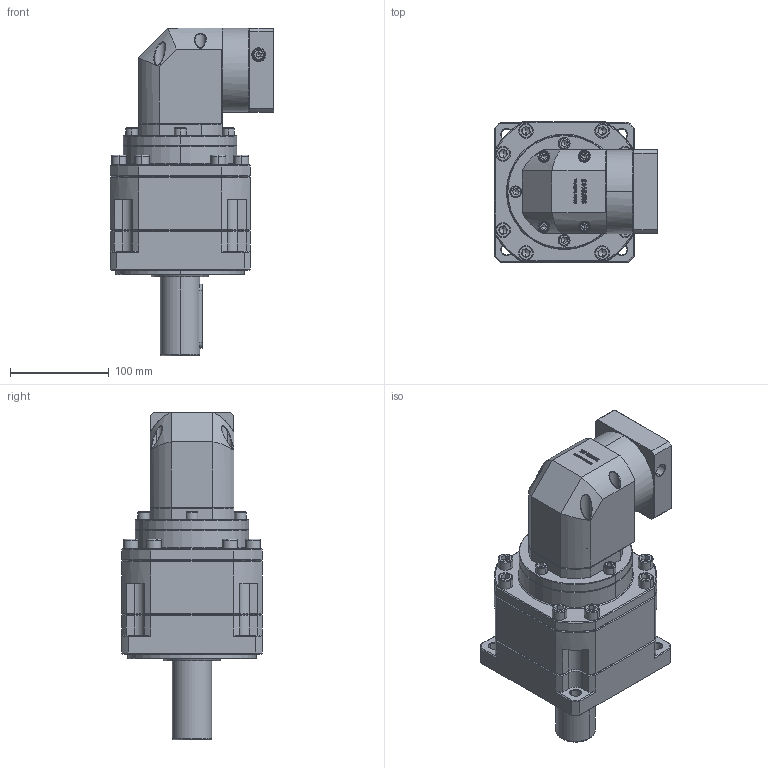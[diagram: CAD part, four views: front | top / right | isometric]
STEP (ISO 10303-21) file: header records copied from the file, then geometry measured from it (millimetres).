
FILE_DESCRIPTION (( 'STEP AP214' ), '1' );
FILE_NAME ('ZB142A-D40-L3-16-80-100-M6.step', '2023-03-20T12:06:18', ( '' ), ( '' ), 'SwSTEP 2.0', 'SolidWorks 2016', '' );
FILE_SCHEMA (( 'AUTOMOTIVE_DESIGN' ));
Length unit declared in the file: millimetre
Products named in the file (1): ZB142A-D40-L3-16-80-100-M6
Bounding box: 166.1 x 142 x 332.2 mm (x, y, z)
Volume: 3351245.7 mm3; surface area: 244173.5 mm2
Topology: 6 solids, 6 shells, 3330 faces, 8684 edges, 5526 vertices
Faces by surface type: plane 1745, bspline 603, cylinder 526, cone 396, torus 60
Entity records: 176834 total; most frequent: CARTESIAN_POINT 63396, ORIENTED_EDGE 17228, DIRECTION 13613, EDGE_CURVE 8614, LINE 5759, VECTOR 5759, VERTEX_POINT 5526, AXIS2_PLACEMENT_3D 3927
